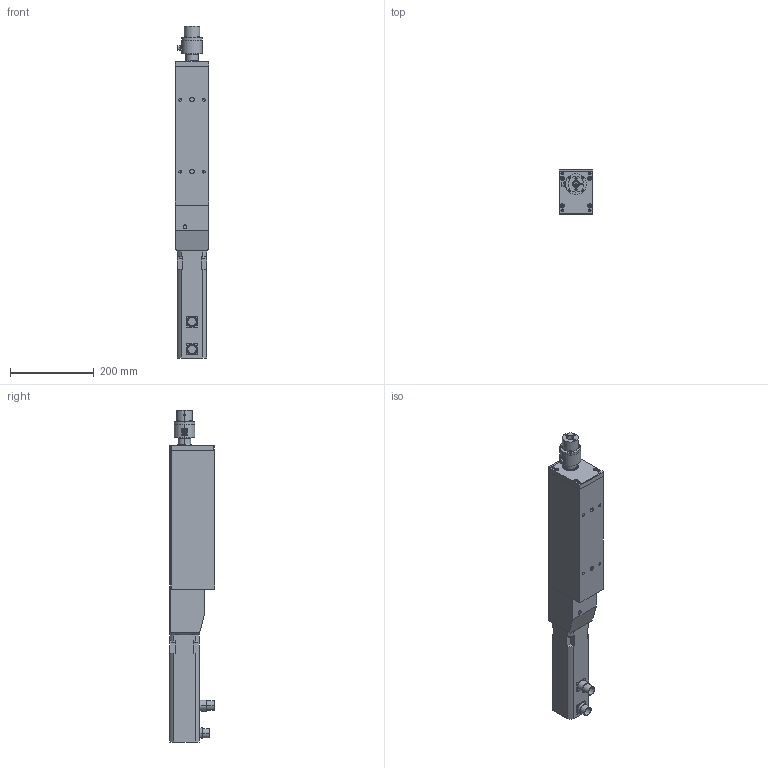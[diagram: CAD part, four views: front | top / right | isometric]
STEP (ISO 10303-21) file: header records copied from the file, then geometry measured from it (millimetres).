
FILE_DESCRIPTION (( 'STEP AP203' ), '1' );
FILE_NAME ('PR5ID040-020-025H.STEP', '2019-08-02T06:34:37', ( '' ), ( '' ), 'SwSTEP 2.0', 'SolidWorks 2016', '' );
FILE_SCHEMA (( 'CONFIG_CONTROL_DESIGN' ));
Length unit declared in the file: millimetre
Products named in the file (1): PR5ID040-020-025H
Bounding box: 80 x 108 x 794.3 mm (x, y, z)
Volume: 3748898.7 mm3; surface area: 538899.2 mm2
Topology: 31 solids, 31 shells, 1151 faces, 2679 edges, 1579 vertices
Faces by surface type: plane 453, cylinder 422, cone 218, torus 58
Entity records: 32628 total; most frequent: CARTESIAN_POINT 6146, DIRECTION 5919, ORIENTED_EDGE 5058, EDGE_CURVE 2529, AXIS2_PLACEMENT_3D 2286, VERTEX_POINT 1579, EDGE_LOOP 1400, VECTOR 1347
